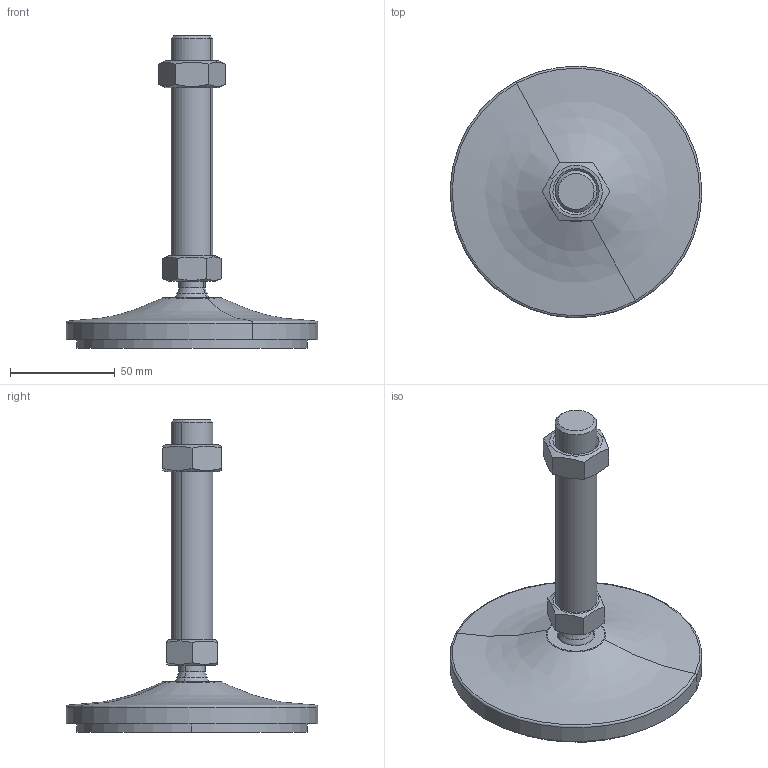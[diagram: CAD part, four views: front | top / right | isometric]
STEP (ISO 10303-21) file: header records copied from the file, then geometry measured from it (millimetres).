
FILE_DESCRIPTION(('CATIA V5 STEP Exchange'),'2;1');
FILE_NAME('C:\Users\ALI OZGUN\Desktop\alhan\saplama2\560122015AV.stp','2017-09-21T10:32:02+00:00',('none'),('none'),'CATIA Version 5 Release 21 GA (IN-10)','CATIA V5 STEP AP203','none');
FILE_SCHEMA(('CONFIG_CONTROL_DESIGN'));
Length unit declared in the file: millimetre
Products named in the file (1): 560122015AV
Bounding box: 119.97 x 119.97 x 149 mm (x, y, z)
Volume: 216616.4 mm3; surface area: 62245.2 mm2
Topology: 4 solids, 4 shells, 64 faces, 142 edges, 87 vertices
Faces by surface type: plane 22, cylinder 16, cone 16, torus 4, revolution 4, sphere 2
Entity records: 1957 total; most frequent: CARTESIAN_POINT 649, ORIENTED_EDGE 280, DIRECTION 197, EDGE_CURVE 140, AXIS2_PLACEMENT_3D 106, VERTEX_POINT 87, EDGE_LOOP 71, ADVANCED_FACE 64
